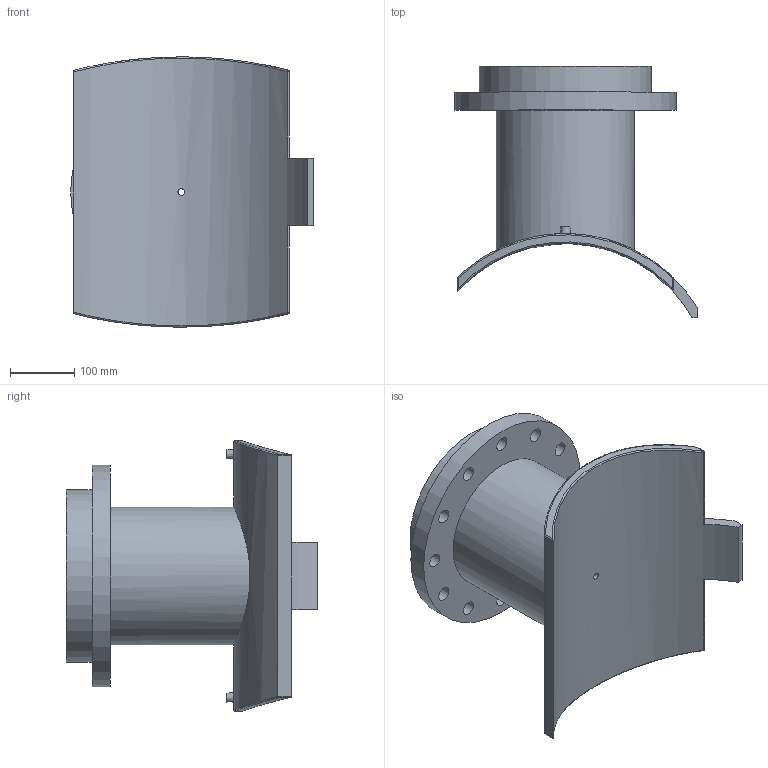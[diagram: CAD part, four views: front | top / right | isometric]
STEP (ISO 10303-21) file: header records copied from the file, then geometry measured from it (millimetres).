
FILE_DESCRIPTION(/* description */ ('PLASSON FLANGED BRANCH SADDLE 400-450X200'),/* implementation_level */ '2;1');
FILE_NAME(/* name */ 'C:\Dropbox\KIMPROJECTS-Inventor 2019\99-16-3568-Processing\ElectroFusion Fittings\495904_495903\stp\495903450200TN.stp',/* time_stamp */ '2024-04-03T21:00:56+02:00',/* author */ ('KIM'),/* organization */ (''),/* preprocessor_version */ 'ST-DEVELOPER v17.2',/* originating_system */ 'Autodesk Inventor 2019',/* authorisation */ '');
FILE_SCHEMA (('AUTOMOTIVE_DESIGN { 1 0 10303 214 3 1 1 }'));
Length unit declared in the file: millimetre
Products named in the file (1): 495903450200TN
Bounding box: 377.15 x 390.45 x 419.94 mm (x, y, z)
Volume: 8776785.8 mm3; surface area: 826118.3 mm2
Topology: 1 solids, 1 shells, 62 faces, 163 edges, 126 vertices
Faces by surface type: cylinder 35, plane 17, sphere 4, bspline 4, cone 2
Full cylindrical faces by diameter (mm): 4 x2, 10 x2, 10.4 x1, 16 x1, 22 x12, 163 x1, 214.4 x1, 268 x1, 344 x1
Entity records: 2604 total; most frequent: CARTESIAN_POINT 976, DIRECTION 325, ORIENTED_EDGE 298, EDGE_CURVE 149, AXIS2_PLACEMENT_3D 137, VERTEX_POINT 100, EDGE_LOOP 99, CIRCLE 78
